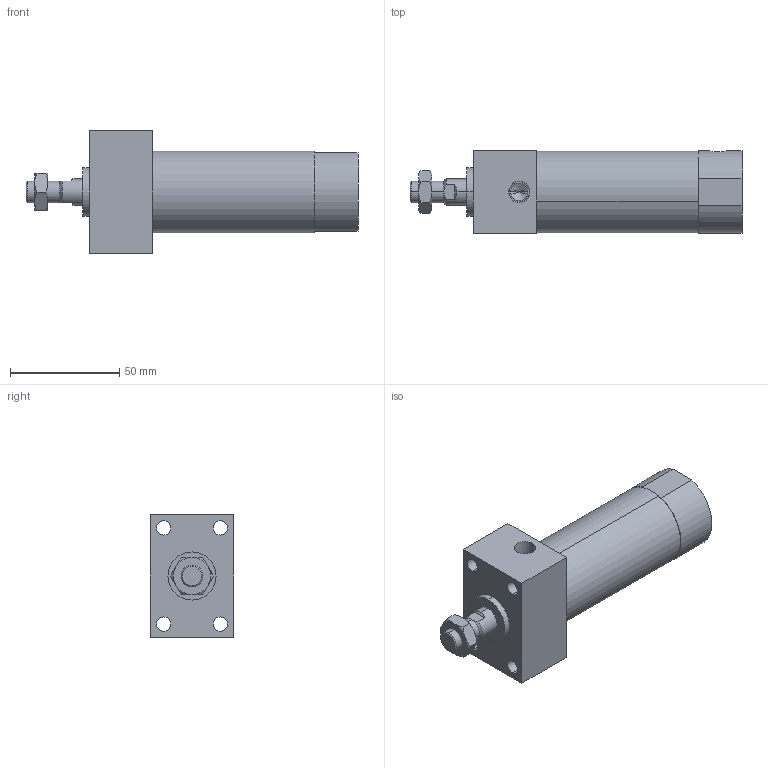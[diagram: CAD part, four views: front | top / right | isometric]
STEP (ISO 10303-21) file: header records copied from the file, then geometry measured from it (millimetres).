
FILE_DESCRIPTION (( 'STEP AP203' ), '1' );
FILE_NAME ('JGEF2-32-25.STEP', '2016-04-20T07:05:35', ( '' ), ( '' ), 'SwSTEP 2.0', 'SolidWorks 2014', '' );
FILE_SCHEMA (( 'CONFIG_CONTROL_DESIGN' ));
Length unit declared in the file: millimetre
Products named in the file (5): M10x1.5-6mm; JGEF2-32B; JGES2-32A; JGEF2-32-25; 32-25
Assembly tree (4 placements, depth 2):
  JGEF2-32-25
    JGEF2-32B
    32-25
    JGES2-32A
    M10x1.5-6mm
Bounding box: 152 x 38 x 56 mm (x, y, z)
Volume: 164666.9 mm3; surface area: 30311.7 mm2
Topology: 4 solids, 4 shells, 83 faces, 186 edges, 113 vertices
Faces by surface type: plane 29, cylinder 26, cone 16, torus 12
Entity records: 2979 total; most frequent: CARTESIAN_POINT 621, DIRECTION 406, ORIENTED_EDGE 360, EDGE_CURVE 180, AXIS2_PLACEMENT_3D 168, VERTEX_POINT 113, EDGE_LOOP 101, ADVANCED_FACE 83
